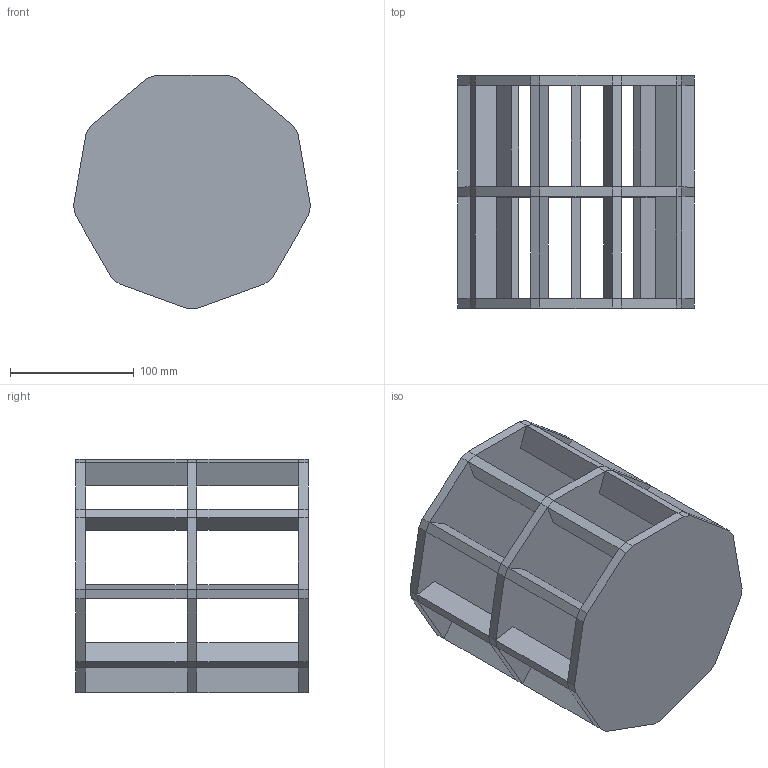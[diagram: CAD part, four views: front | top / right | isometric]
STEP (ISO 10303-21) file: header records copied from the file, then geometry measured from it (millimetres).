
FILE_DESCRIPTION (( 'STEP AP203' ), '1' );
FILE_NAME ('HAKU MINI X.STEP', '2023-06-29T10:03:01', ( '' ), ( '' ), 'SwSTEP 2.0', 'SolidWorks 2023', '' );
FILE_SCHEMA (( 'CONFIG_CONTROL_DESIGN' ));
Length unit declared in the file: millimetre
Products named in the file (2): Group1^HAKU MINI X; HAKU MINI X
Assembly tree (1 placements, depth 2):
  HAKU MINI X
    Group1^HAKU MINI X
Bounding box: 191.48 x 188 x 188.57 mm (x, y, z)
Volume: 901174 mm3; surface area: 257513.5 mm2
Topology: 1 solids, 1 shells, 132 faces, 342 edges, 180 vertices
Faces by surface type: plane 132
Entity records: 4014 total; most frequent: ORIENTED_EDGE 684, CARTESIAN_POINT 658, DIRECTION 614, VECTOR 342, LINE 342, EDGE_CURVE 342, VERTEX_POINT 180, AXIS2_PLACEMENT_3D 136
